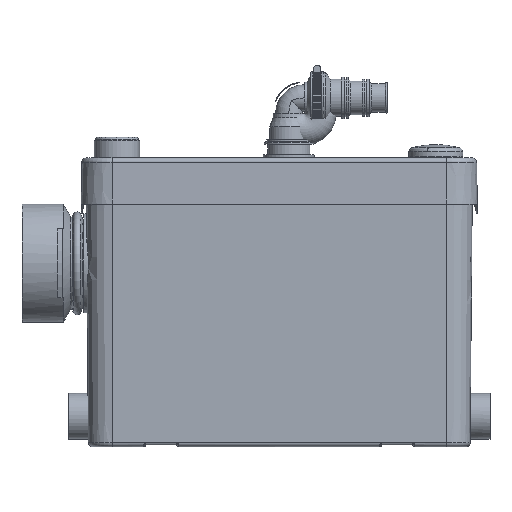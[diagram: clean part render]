
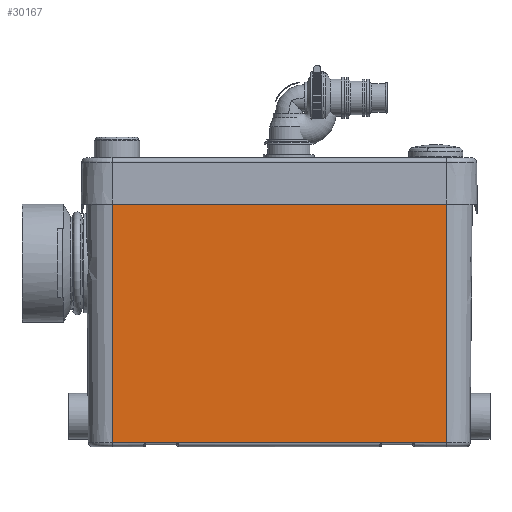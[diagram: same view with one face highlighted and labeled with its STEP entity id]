
A CAD part, top view. The second image highlights one B-rep face of the part: STEP entity #30167.
In plain terms, the highlighted planar face has unit normal (0, -0.009, 1).
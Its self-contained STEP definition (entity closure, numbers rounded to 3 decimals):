
#71 = CARTESIAN_POINT ( 'NONE',  ( 170., -214.035, -50.325 ) ) ;
#284 = VERTEX_POINT ( 'NONE', #25129 ) ;
#325 = VERTEX_POINT ( 'NONE', #542 ) ;
#542 = CARTESIAN_POINT ( 'NONE',  ( -136.061, -214.035, -50.325 ) ) ;
#760 = LINE ( 'NONE', #4580, #13818 ) ;
#899 = CARTESIAN_POINT ( 'NONE',  ( -135.877, -214.017, -50.325 ) ) ;
#1150 = LINE ( 'NONE', #9094, #26507 ) ;
#1154 = LINE ( 'NONE', #7737, #26510 ) ;
#1601 = ORIENTED_EDGE ( 'NONE', *, *, #7405, .T. ) ;
#1986 = EDGE_CURVE ( 'NONE', #16829, #2416, #21488, .T. ) ;
#2127 = VECTOR ( 'NONE', #9625, 1000. ) ;
#2338 = DIRECTION ( 'NONE',  ( 1., 0., 0. ) ) ;
#2404 = CARTESIAN_POINT ( 'NONE',  ( -170., 45.5, -48.06 ) ) ;
#2406 =( BOUNDED_CURVE ( )  B_SPLINE_CURVE ( 3, ( #15120, #23276, #899, #29158 ),
 .UNSPECIFIED., .F., .T. ) 
 B_SPLINE_CURVE_WITH_KNOTS ( ( 4, 4 ),
 ( 3.016, 3.142 ),
 .UNSPECIFIED. ) 
 CURVE ( )  GEOMETRIC_REPRESENTATION_ITEM ( )  RATIONAL_B_SPLINE_CURVE ( ( 1., 0.999, 0.999, 1. ) ) 
 REPRESENTATION_ITEM ( '' )  );
#2416 = VERTEX_POINT ( 'NONE', #27367 ) ;
#4114 = DIRECTION ( 'NONE',  ( 0., -0.009, 1. ) ) ;
#4121 = VERTEX_POINT ( 'NONE', #14057 ) ;
#4158 = ORIENTED_EDGE ( 'NONE', *, *, #15066, .T. ) ;
#4169 = LINE ( 'NONE', #17308, #17180 ) ;
#4453 = VERTEX_POINT ( 'NONE', #17210 ) ;
#4580 = CARTESIAN_POINT ( 'NONE',  ( 170., -214.035, -50.325 ) ) ;
#5018 = ORIENTED_EDGE ( 'NONE', *, *, #20409, .T. ) ;
#5067 =( BOUNDED_CURVE ( )  B_SPLINE_CURVE ( 3, ( #27636, #7935, #22777, #5564 ),
 .UNSPECIFIED., .F., .F. ) 
 B_SPLINE_CURVE_WITH_KNOTS ( ( 4, 4 ),
 ( 0., 0.126 ),
 .UNSPECIFIED. ) 
 CURVE ( )  GEOMETRIC_REPRESENTATION_ITEM ( )  RATIONAL_B_SPLINE_CURVE ( ( 1., 0.999, 0.999, 1. ) ) 
 REPRESENTATION_ITEM ( '' )  );
#5458 = LINE ( 'NONE', #27460, #18514 ) ;
#5564 = CARTESIAN_POINT ( 'NONE',  ( 136.061, -214.035, -50.325 ) ) ;
#5572 = FACE_OUTER_BOUND ( 'NONE', #22568, .T. ) ;
#5614 = CARTESIAN_POINT ( 'NONE',  ( -104.216, -214.017, -50.325 ) ) ;
#5821 = CARTESIAN_POINT ( 'NONE',  ( 103.939, -214.035, -50.325 ) ) ;
#6817 = ORIENTED_EDGE ( 'NONE', *, *, #20860, .T. ) ;
#7405 = EDGE_CURVE ( 'NONE', #325, #10414, #2406, .T. ) ;
#7723 = EDGE_CURVE ( 'NONE', #8617, #8830, #18092, .T. ) ;
#7737 = CARTESIAN_POINT ( 'NONE',  ( -104.216, -214.017, -50.325 ) ) ;
#7935 = CARTESIAN_POINT ( 'NONE',  ( 135.877, -214.017, -50.325 ) ) ;
#8294 = CARTESIAN_POINT ( 'NONE',  ( 104.123, -214.017, -50.325 ) ) ;
#8580 = CARTESIAN_POINT ( 'NONE',  ( -104.216, -214.017, -50.325 ) ) ;
#8617 = VERTEX_POINT ( 'NONE', #8580 ) ;
#8830 = VERTEX_POINT ( 'NONE', #22358 ) ;
#9094 = CARTESIAN_POINT ( 'NONE',  ( -170., 45.5, -48.06 ) ) ;
#9625 = DIRECTION ( 'NONE',  ( 1., 0., 0. ) ) ;
#9681 = CARTESIAN_POINT ( 'NONE',  ( -135.784, -214.017, -50.325 ) ) ;
#9869 = ORIENTED_EDGE ( 'NONE', *, *, #17667, .F. ) ;
#10414 = VERTEX_POINT ( 'NONE', #9681 ) ;
#10536 = EDGE_CURVE ( 'NONE', #10587, #23111, #12720, .T. ) ;
#10587 = VERTEX_POINT ( 'NONE', #2404 ) ;
#11489 = DIRECTION ( 'NONE',  ( 0., 1., 0.009 ) ) ;
#11507 = ORIENTED_EDGE ( 'NONE', *, *, #7723, .T. ) ;
#11643 = VECTOR ( 'NONE', #23604, 1000. ) ;
#12672 = EDGE_CURVE ( 'NONE', #284, #325, #4169, .T. ) ;
#12720 = LINE ( 'NONE', #14525, #19217 ) ;
#13257 = CARTESIAN_POINT ( 'NONE',  ( 104.031, -214.023, -50.325 ) ) ;
#13818 = VECTOR ( 'NONE', #2338, 1000. ) ;
#14057 = CARTESIAN_POINT ( 'NONE',  ( 135.784, -214.017, -50.325 ) ) ;
#14493 = DIRECTION ( 'NONE',  ( 1., 0., 0. ) ) ;
#14525 = CARTESIAN_POINT ( 'NONE',  ( 170., 45.5, -48.06 ) ) ;
#15066 = EDGE_CURVE ( 'NONE', #4121, #16829, #5067, .T. ) ;
#15120 = CARTESIAN_POINT ( 'NONE',  ( -136.061, -214.035, -50.325 ) ) ;
#16329 = CARTESIAN_POINT ( 'NONE',  ( -103.939, -214.035, -50.325 ) ) ;
#16829 = VERTEX_POINT ( 'NONE', #29653 ) ;
#17180 = VECTOR ( 'NONE', #29142, 1000. ) ;
#17210 = CARTESIAN_POINT ( 'NONE',  ( 103.939, -214.035, -50.325 ) ) ;
#17308 = CARTESIAN_POINT ( 'NONE',  ( 170., -214.035, -50.325 ) ) ;
#17437 = CARTESIAN_POINT ( 'NONE',  ( -104.031, -214.023, -50.325 ) ) ;
#17560 = EDGE_CURVE ( 'NONE', #8830, #4453, #760, .T. ) ;
#17667 = EDGE_CURVE ( 'NONE', #284, #10587, #1150, .T. ) ;
#18092 =( BOUNDED_CURVE ( )  B_SPLINE_CURVE ( 3, ( #5614, #20056, #17437, #16329 ),
 .UNSPECIFIED., .F., .T. ) 
 B_SPLINE_CURVE_WITH_KNOTS ( ( 4, 4 ),
 ( 0., 0.126 ),
 .UNSPECIFIED. ) 
 CURVE ( )  GEOMETRIC_REPRESENTATION_ITEM ( )  RATIONAL_B_SPLINE_CURVE ( ( 1., 0.999, 0.999, 1. ) ) 
 REPRESENTATION_ITEM ( '' )  );
#18514 = VECTOR ( 'NONE', #27346, 1000. ) ;
#18803 = CARTESIAN_POINT ( 'NONE',  ( 170., 45.5, -48.06 ) ) ;
#18897 = ORIENTED_EDGE ( 'NONE', *, *, #12672, .T. ) ;
#19217 = VECTOR ( 'NONE', #14493, 1000. ) ;
#20056 = CARTESIAN_POINT ( 'NONE',  ( -104.123, -214.017, -50.325 ) ) ;
#20180 = ORIENTED_EDGE ( 'NONE', *, *, #25745, .T. ) ;
#20409 = EDGE_CURVE ( 'NONE', #21311, #4121, #31295, .T. ) ;
#20479 = ORIENTED_EDGE ( 'NONE', *, *, #1986, .T. ) ;
#20860 = EDGE_CURVE ( 'NONE', #2416, #23111, #5458, .T. ) ;
#21256 = PLANE ( 'NONE',  #24009 ) ;
#21286 = DIRECTION ( 'NONE',  ( 0., -1., -0.009 ) ) ;
#21311 = VERTEX_POINT ( 'NONE', #28157 ) ;
#21488 = LINE ( 'NONE', #71, #2127 ) ;
#22077 = EDGE_CURVE ( 'NONE', #4453, #21311, #24200, .T. ) ;
#22358 = CARTESIAN_POINT ( 'NONE',  ( -103.939, -214.035, -50.325 ) ) ;
#22450 = DIRECTION ( 'NONE',  ( 1., 0., 0. ) ) ;
#22568 = EDGE_LOOP ( 'NONE', ( #20180, #11507, #22588, #29546, #5018, #4158, #20479, #6817, #23793, #9869, #18897, #1601 ) ) ;
#22588 = ORIENTED_EDGE ( 'NONE', *, *, #17560, .T. ) ;
#22777 = CARTESIAN_POINT ( 'NONE',  ( 135.969, -214.023, -50.325 ) ) ;
#23111 = VERTEX_POINT ( 'NONE', #28419 ) ;
#23276 = CARTESIAN_POINT ( 'NONE',  ( -135.969, -214.023, -50.325 ) ) ;
#23604 = DIRECTION ( 'NONE',  ( 1., 0., 0. ) ) ;
#23793 = ORIENTED_EDGE ( 'NONE', *, *, #10536, .F. ) ;
#24009 = AXIS2_PLACEMENT_3D ( 'NONE', #18803, #4114, #21286 ) ;
#24200 =( BOUNDED_CURVE ( )  B_SPLINE_CURVE ( 3, ( #5821, #13257, #8294, #25532 ),
 .UNSPECIFIED., .F., .T. ) 
 B_SPLINE_CURVE_WITH_KNOTS ( ( 4, 4 ),
 ( 3.016, 3.142 ),
 .UNSPECIFIED. ) 
 CURVE ( )  GEOMETRIC_REPRESENTATION_ITEM ( )  RATIONAL_B_SPLINE_CURVE ( ( 1., 0.999, 0.999, 1. ) ) 
 REPRESENTATION_ITEM ( '' )  );
#25129 = CARTESIAN_POINT ( 'NONE',  ( -170., -214.035, -50.325 ) ) ;
#25532 = CARTESIAN_POINT ( 'NONE',  ( 104.216, -214.017, -50.325 ) ) ;
#25745 = EDGE_CURVE ( 'NONE', #10414, #8617, #1154, .T. ) ;
#26507 = VECTOR ( 'NONE', #11489, 1000. ) ;
#26510 = VECTOR ( 'NONE', #22450, 1000. ) ;
#27346 = DIRECTION ( 'NONE',  ( 0., 1., 0.009 ) ) ;
#27367 = CARTESIAN_POINT ( 'NONE',  ( 170., -214.035, -50.325 ) ) ;
#27460 = CARTESIAN_POINT ( 'NONE',  ( 170., 45.5, -48.06 ) ) ;
#27636 = CARTESIAN_POINT ( 'NONE',  ( 135.784, -214.017, -50.325 ) ) ;
#28157 = CARTESIAN_POINT ( 'NONE',  ( 104.216, -214.017, -50.325 ) ) ;
#28419 = CARTESIAN_POINT ( 'NONE',  ( 170., 45.5, -48.06 ) ) ;
#29142 = DIRECTION ( 'NONE',  ( 1., 0., 0. ) ) ;
#29158 = CARTESIAN_POINT ( 'NONE',  ( -135.784, -214.017, -50.325 ) ) ;
#29546 = ORIENTED_EDGE ( 'NONE', *, *, #22077, .T. ) ;
#29653 = CARTESIAN_POINT ( 'NONE',  ( 136.061, -214.035, -50.325 ) ) ;
#30167 = ADVANCED_FACE ( 'NONE', ( #5572 ), #21256, .T. ) ;
#30329 = CARTESIAN_POINT ( 'NONE',  ( 135.784, -214.017, -50.325 ) ) ;
#31295 = LINE ( 'NONE', #30329, #11643 ) ;
